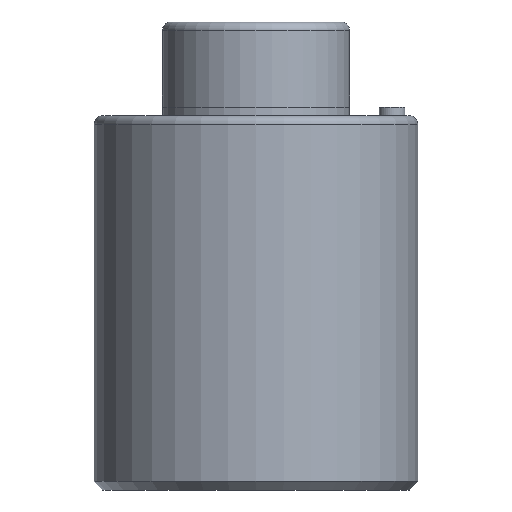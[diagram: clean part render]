
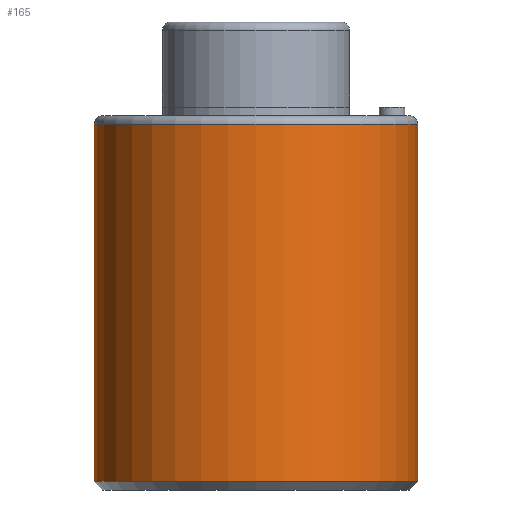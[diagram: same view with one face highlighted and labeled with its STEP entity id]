
A CAD part, front view. The second image highlights one B-rep face of the part: STEP entity #165.
In plain terms, the highlighted cylindrical face has radius 19 mm (diameter 38 mm), a partial arc.
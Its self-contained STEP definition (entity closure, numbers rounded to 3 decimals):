
#117=CYLINDRICAL_SURFACE('',#468,19.);
#129=LINE('',#673,#145);
#130=LINE('',#677,#146);
#145=VECTOR('',#554,1.);
#146=VECTOR('',#557,1.);
#165=ADVANCED_FACE('',(#194),#117,.T.);
#194=FACE_OUTER_BOUND('',#216,.T.);
#216=EDGE_LOOP('',(#269,#270,#271,#272));
#269=ORIENTED_EDGE('',*,*,#382,.T.);
#270=ORIENTED_EDGE('',*,*,#383,.F.);
#271=ORIENTED_EDGE('',*,*,#384,.F.);
#272=ORIENTED_EDGE('',*,*,#377,.T.);
#342=VERTEX_POINT('',#663);
#343=VERTEX_POINT('',#665);
#345=VERTEX_POINT('',#674);
#346=VERTEX_POINT('',#676);
#377=EDGE_CURVE('',#343,#342,#421,.T.);
#382=EDGE_CURVE('',#342,#345,#129,.T.);
#383=EDGE_CURVE('',#346,#345,#426,.T.);
#384=EDGE_CURVE('',#343,#346,#130,.T.);
#421=CIRCLE('',#460,19.);
#426=CIRCLE('',#467,19.);
#460=AXIS2_PLACEMENT_3D('',#664,#540,#541);
#467=AXIS2_PLACEMENT_3D('',#675,#555,#556);
#468=AXIS2_PLACEMENT_3D('',#678,#558,#559);
#540=DIRECTION('',(0.,0.,-1.));
#541=DIRECTION('',(0.,1.,0.));
#554=DIRECTION('',(0.,0.,-1.));
#555=DIRECTION('',(0.,0.,-1.));
#556=DIRECTION('',(0.,1.,0.));
#557=DIRECTION('',(0.,0.,-1.));
#558=DIRECTION('',(0.,0.,-1.));
#559=DIRECTION('',(0.,-1.,0.));
#663=CARTESIAN_POINT('',(-19.,0.,43.));
#664=CARTESIAN_POINT('',(0.,0.,43.));
#665=CARTESIAN_POINT('',(19.,0.,43.));
#673=CARTESIAN_POINT('',(-19.,0.,1.));
#674=CARTESIAN_POINT('',(-19.,0.,1.));
#675=CARTESIAN_POINT('',(0.,0.,1.));
#676=CARTESIAN_POINT('',(19.,0.,1.));
#677=CARTESIAN_POINT('',(19.,0.,1.));
#678=CARTESIAN_POINT('',(0.,0.,43.));
